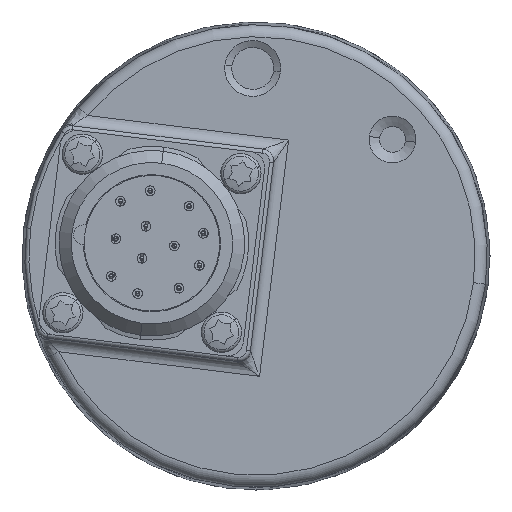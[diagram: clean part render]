
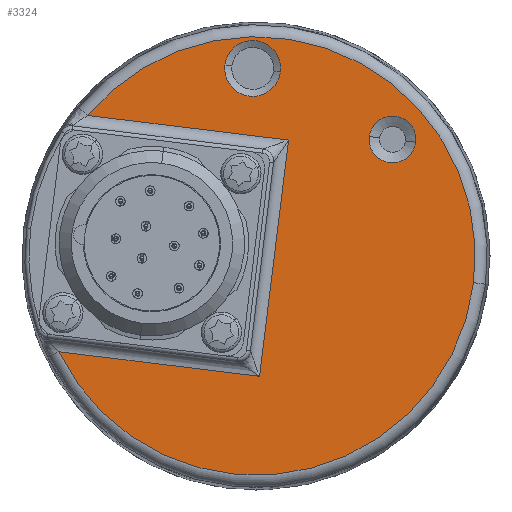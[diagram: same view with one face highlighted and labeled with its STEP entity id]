
A CAD part, left-side view. The second image highlights one B-rep face of the part: STEP entity #3324.
In plain terms, the highlighted planar face has unit normal (-1, 0, 0).
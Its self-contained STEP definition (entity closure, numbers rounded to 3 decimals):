
#3029 = VERTEX_POINT ( 'NONE', #9507 ) ;
#3055 = VERTEX_POINT ( 'NONE', #9764 ) ;
#3060 = EDGE_CURVE ( 'NONE', #3055, #3029, #9748, .T. ) ;
#3107 = EDGE_CURVE ( 'NONE', #3108, #3232, #10108, .T. ) ;
#3108 = VERTEX_POINT ( 'NONE', #10094 ) ;
#3129 = EDGE_CURVE ( 'NONE', #3329, #3350, #9955, .T. ) ;
#3193 = VERTEX_POINT ( 'NONE', #10175 ) ;
#3195 = EDGE_CURVE ( 'NONE', #3196, #3193, #10174, .T. ) ;
#3196 = VERTEX_POINT ( 'NONE', #10169 ) ;
#3232 = VERTEX_POINT ( 'NONE', #10554 ) ;
#3289 = EDGE_CURVE ( 'NONE', #3232, #3055, #10347, .T. ) ;
#3291 = ORIENTED_EDGE ( 'NONE', *, *, #3060, .T. ) ;
#3293 = ORIENTED_EDGE ( 'NONE', *, *, #3129, .T. ) ;
#3320 = EDGE_CURVE ( 'NONE', #3193, #3196, #10588, .T. ) ;
#3321 = ORIENTED_EDGE ( 'NONE', *, *, #3195, .T. ) ;
#3324 = ADVANCED_FACE ( 'NONE', ( #10578, #10577, #10576 ), #10666, .F. ) ;
#3329 = VERTEX_POINT ( 'NONE', #11049 ) ;
#3343 = EDGE_LOOP ( 'NONE', ( #3349, #3348, #3345, #3346, #3291 ) ) ;
#3344 = EDGE_CURVE ( 'NONE', #3384, #3108, #10793, .T. ) ;
#3345 = ORIENTED_EDGE ( 'NONE', *, *, #3107, .T. ) ;
#3346 = ORIENTED_EDGE ( 'NONE', *, *, #3289, .T. ) ;
#3347 = ORIENTED_EDGE ( 'NONE', *, *, #3404, .T. ) ;
#3348 = ORIENTED_EDGE ( 'NONE', *, *, #3344, .T. ) ;
#3349 = ORIENTED_EDGE ( 'NONE', *, *, #3383, .T. ) ;
#3350 = VERTEX_POINT ( 'NONE', #10784 ) ;
#3377 = EDGE_LOOP ( 'NONE', ( #3347, #3293 ) ) ;
#3382 = ORIENTED_EDGE ( 'NONE', *, *, #3320, .T. ) ;
#3383 = EDGE_CURVE ( 'NONE', #3029, #3384, #11307, .T. ) ;
#3384 = VERTEX_POINT ( 'NONE', #11544 ) ;
#3404 = EDGE_CURVE ( 'NONE', #3350, #3329, #11509, .T. ) ;
#3409 = EDGE_LOOP ( 'NONE', ( #3321, #3382 ) ) ;
#9507 = CARTESIAN_POINT ( 'NONE',  ( -22.96, -8.592, -12.311 ) ) ;
#9582 = VECTOR ( 'NONE', #9962, 1000. ) ;
#9745 = DIRECTION ( 'NONE',  ( 0., 0.122, -0.993 ) ) ;
#9746 = VECTOR ( 'NONE', #9745, 1000. ) ;
#9747 = CARTESIAN_POINT ( 'NONE',  ( -22.96, -8.775, -10.822 ) ) ;
#9748 = LINE ( 'NONE', #9747, #9746 ) ;
#9764 = CARTESIAN_POINT ( 'NONE',  ( -22.96, -12.187, 16.969 ) ) ;
#9946 = DIRECTION ( 'NONE',  ( 0., -0.993, -0.122 ) ) ;
#9947 = DIRECTION ( 'NONE',  ( 1., 0., 0. ) ) ;
#9948 = CARTESIAN_POINT ( 'NONE',  ( -22.96, -25.076, 17.053 ) ) ;
#9949 = AXIS2_PLACEMENT_3D ( 'NONE', #9948, #9947, #9946 ) ;
#9955 = CIRCLE ( 'NONE', #9949, 2.899 ) ;
#9962 = DIRECTION ( 'NONE',  ( 0., -0.993, -0.122 ) ) ;
#10094 = CARTESIAN_POINT ( 'NONE',  ( -22.96, -35.127, -0.708 ) ) ;
#10095 = DIRECTION ( 'NONE',  ( 0., -0.993, -0.122 ) ) ;
#10096 = DIRECTION ( 'NONE',  ( -1., 0., 0. ) ) ;
#10107 = AXIS2_PLACEMENT_3D ( 'NONE', #10109, #10096, #10095 ) ;
#10108 = CIRCLE ( 'NONE', #10107, 27.173 ) ;
#10109 = CARTESIAN_POINT ( 'NONE',  ( -22.96, -8.157, 2.603 ) ) ;
#10169 = CARTESIAN_POINT ( 'NONE',  ( -22.96, -4.311, 26.272 ) ) ;
#10170 = DIRECTION ( 'NONE',  ( 0., -0.993, -0.122 ) ) ;
#10171 = DIRECTION ( 'NONE',  ( 1., 0., 0. ) ) ;
#10172 = CARTESIAN_POINT ( 'NONE',  ( -22.96, -7.751, 25.85 ) ) ;
#10173 = AXIS2_PLACEMENT_3D ( 'NONE', #10172, #10171, #10170 ) ;
#10174 = CIRCLE ( 'NONE', #10173, 3.466 ) ;
#10175 = CARTESIAN_POINT ( 'NONE',  ( -22.96, -11.191, 25.427 ) ) ;
#10346 = CARTESIAN_POINT ( 'NONE',  ( -22.96, -10.698, 17.152 ) ) ;
#10347 = LINE ( 'NONE', #10346, #9582 ) ;
#10554 = CARTESIAN_POINT ( 'NONE',  ( -22.96, 12.697, 20.024 ) ) ;
#10576 = FACE_OUTER_BOUND ( 'NONE', #3343, .T. ) ;
#10577 = FACE_BOUND ( 'NONE', #3377, .T. ) ;
#10578 = FACE_BOUND ( 'NONE', #3409, .T. ) ;
#10585 = DIRECTION ( 'NONE',  ( 0., -0.993, -0.122 ) ) ;
#10586 = DIRECTION ( 'NONE',  ( 1., 0., 0. ) ) ;
#10587 = AXIS2_PLACEMENT_3D ( 'NONE', #10670, #10586, #10585 ) ;
#10588 = CIRCLE ( 'NONE', #10587, 3.466 ) ;
#10662 = DIRECTION ( 'NONE',  ( 0., -0.993, -0.122 ) ) ;
#10663 = DIRECTION ( 'NONE',  ( 1., 0., 0. ) ) ;
#10664 = CARTESIAN_POINT ( 'NONE',  ( -22.96, -8.157, 2.603 ) ) ;
#10665 = AXIS2_PLACEMENT_3D ( 'NONE', #10664, #10663, #10662 ) ;
#10666 = PLANE ( 'NONE',  #10665 ) ;
#10670 = CARTESIAN_POINT ( 'NONE',  ( -22.96, -7.751, 25.85 ) ) ;
#10784 = CARTESIAN_POINT ( 'NONE',  ( -22.96, -22.198, 17.407 ) ) ;
#10785 = DIRECTION ( 'NONE',  ( 0., -0.993, -0.122 ) ) ;
#10786 = DIRECTION ( 'NONE',  ( -1., 0., 0. ) ) ;
#10787 = CARTESIAN_POINT ( 'NONE',  ( -22.96, -8.157, 2.603 ) ) ;
#10788 = AXIS2_PLACEMENT_3D ( 'NONE', #10787, #10786, #10785 ) ;
#10793 = CIRCLE ( 'NONE', #10788, 27.173 ) ;
#11049 = CARTESIAN_POINT ( 'NONE',  ( -22.96, -27.953, 16.7 ) ) ;
#11304 = DIRECTION ( 'NONE',  ( 0., 0.993, 0.122 ) ) ;
#11305 = VECTOR ( 'NONE', #11304, 1000. ) ;
#11306 = CARTESIAN_POINT ( 'NONE',  ( -22.96, 18.857, -8.941 ) ) ;
#11307 = LINE ( 'NONE', #11306, #11305 ) ;
#11505 = DIRECTION ( 'NONE',  ( 0., -0.993, -0.122 ) ) ;
#11506 = DIRECTION ( 'NONE',  ( 1., 0., 0. ) ) ;
#11507 = CARTESIAN_POINT ( 'NONE',  ( -22.96, -25.076, 17.053 ) ) ;
#11508 = AXIS2_PLACEMENT_3D ( 'NONE', #11507, #11506, #11505 ) ;
#11509 = CIRCLE ( 'NONE', #11508, 2.899 ) ;
#11544 = CARTESIAN_POINT ( 'NONE',  ( -22.96, 16.292, -9.256 ) ) ;
